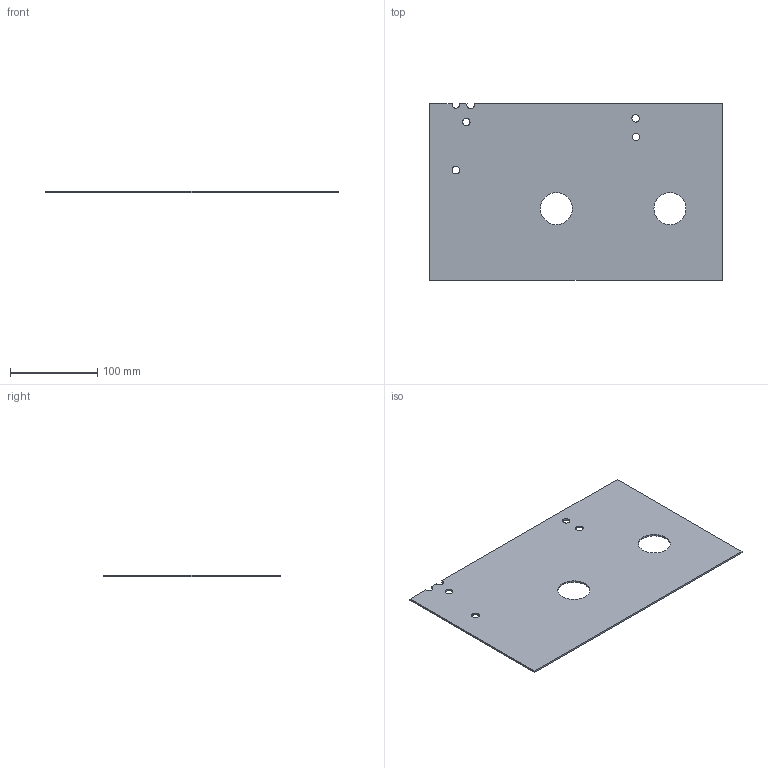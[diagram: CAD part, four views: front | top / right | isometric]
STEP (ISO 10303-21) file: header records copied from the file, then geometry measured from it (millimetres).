
FILE_DESCRIPTION(('Open CASCADE Model'),'2;1');
FILE_NAME('Open CASCADE Shape Model','2026-10-04T02:31:45',('Author'),( 'Open CASCADE'),'Open CASCADE STEP processor 8.0','Open CASCADE 8.0' ,'Unknown');
FILE_SCHEMA(('AUTOMOTIVE_DESIGN { 1 0 10303 214 1 1 1 1 }'));
Length unit declared in the file: millimetre
Products named in the file (1): Open CASCADE STEP translator 8.0 401
Bounding box: 335 x 202 x 2 mm (x, y, z)
Volume: 130512.7 mm3; surface area: 133366.7 mm2
Topology: 1 solids, 1 shells, 18 faces, 48 edges, 32 vertices
Faces by surface type: cylinder 10, plane 8
Full cylindrical faces by diameter (mm): 8.6 x4, 36.6 x2
Entity records: 1230 total; most frequent: DIRECTION 202, CARTESIAN_POINT 195, LINE 104, VECTOR 104, ORIENTED_EDGE 96, PCURVE 96, DEFINITIONAL_REPRESENTATION 96, EDGE_CURVE 48
